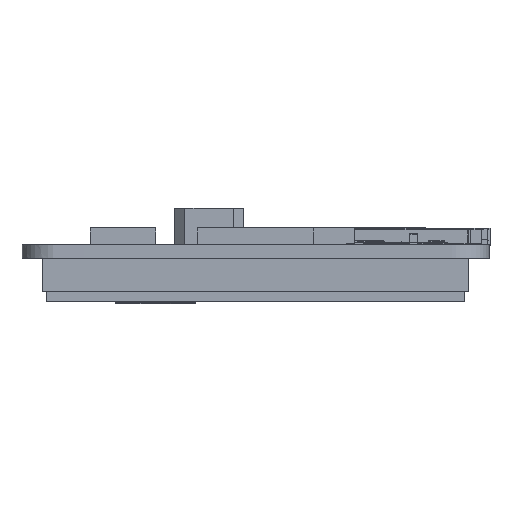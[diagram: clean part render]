
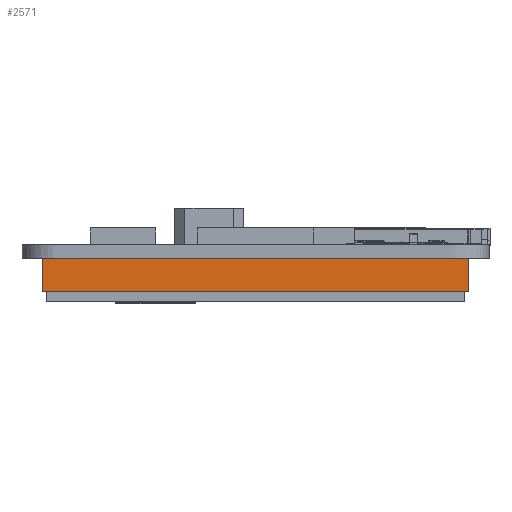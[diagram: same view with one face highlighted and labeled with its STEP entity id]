
A CAD part, left-side view. The second image highlights one B-rep face of the part: STEP entity #2571.
In plain terms, the highlighted planar face has unit normal (-1, 0, 0).
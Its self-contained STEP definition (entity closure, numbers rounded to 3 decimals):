
#182=B_SPLINE_CURVE_WITH_KNOTS('',3,(#41333,#41334,#41335,#41336),.UNSPECIFIED.,
 .F.,.F.,(4,4),(0.,1.),.UNSPECIFIED.);
#183=B_SPLINE_CURVE_WITH_KNOTS('',3,(#41341,#41342,#41343,#41344),.UNSPECIFIED.,
 .F.,.F.,(4,4),(0.,1.),.UNSPECIFIED.);
#2571=ADVANCED_FACE('',(#4852),#3597,.T.);
#3597=PLANE('',#27469);
#4852=FACE_OUTER_BOUND('',#6272,.T.);
#6272=EDGE_LOOP('',(#13736,#13737,#13738,#13739));
#13736=ORIENTED_EDGE('',*,*,#19754,.F.);
#13737=ORIENTED_EDGE('',*,*,#19755,.F.);
#13738=ORIENTED_EDGE('',*,*,#19756,.T.);
#13739=ORIENTED_EDGE('',*,*,#19757,.T.);
#16237=VERTEX_POINT('',#41337);
#16238=VERTEX_POINT('',#41338);
#16239=VERTEX_POINT('',#41340);
#16240=VERTEX_POINT('',#41345);
#19754=EDGE_CURVE('',#16237,#16238,#182,.T.);
#19755=EDGE_CURVE('',#16239,#16237,#22703,.T.);
#19756=EDGE_CURVE('',#16239,#16240,#183,.T.);
#19757=EDGE_CURVE('',#16240,#16238,#22704,.T.);
#22703=LINE('',#41339,#25619);
#22704=LINE('',#41346,#25620);
#25619=VECTOR('',#33886,1.);
#25620=VECTOR('',#33887,1.);
#27469=AXIS2_PLACEMENT_3D('',#41347,#33888,#33889);
#33886=DIRECTION('',(0.,0.,1.));
#33887=DIRECTION('',(0.,0.,1.));
#33888=DIRECTION('',(-1.,0.,0.));
#33889=DIRECTION('',(0.,0.,1.));
#41333=CARTESIAN_POINT('',(57.4,35.8,-1.6));
#41334=CARTESIAN_POINT('',(57.4,18.867,-1.6));
#41335=CARTESIAN_POINT('',(57.4,1.933,-1.6));
#41336=CARTESIAN_POINT('',(57.4,-15.,-1.6));
#41337=CARTESIAN_POINT('',(57.4,35.8,-1.6));
#41338=CARTESIAN_POINT('',(57.4,-15.,-1.6));
#41339=CARTESIAN_POINT('',(57.4,35.8,-5.6));
#41340=CARTESIAN_POINT('',(57.4,35.8,-5.6));
#41341=CARTESIAN_POINT('',(57.4,35.8,-5.6));
#41342=CARTESIAN_POINT('',(57.4,18.867,-5.6));
#41343=CARTESIAN_POINT('',(57.4,1.933,-5.6));
#41344=CARTESIAN_POINT('',(57.4,-15.,-5.6));
#41345=CARTESIAN_POINT('',(57.4,-15.,-5.6));
#41346=CARTESIAN_POINT('',(57.4,-15.,-5.6));
#41347=CARTESIAN_POINT('',(57.4,35.8,-5.6));
